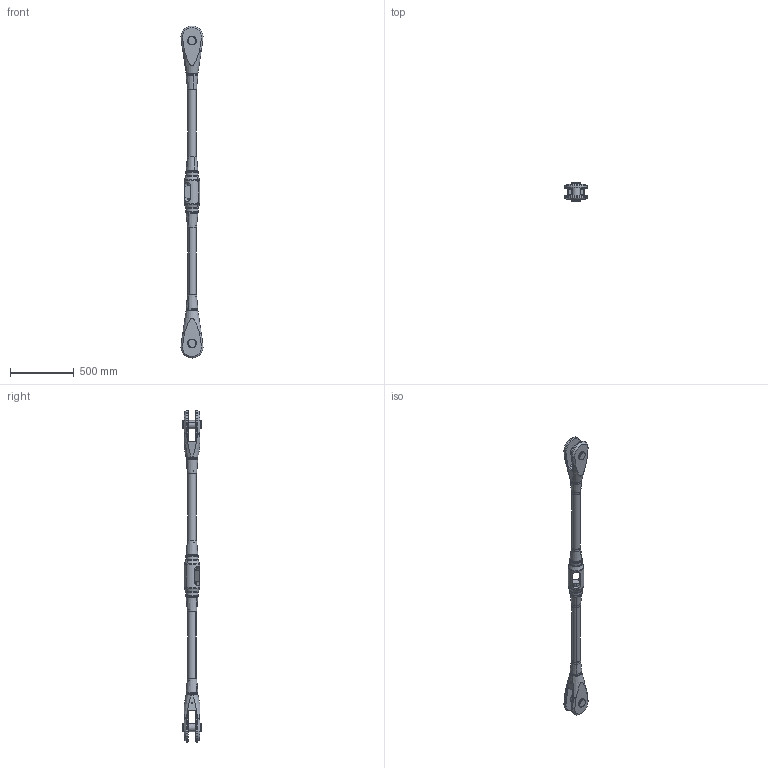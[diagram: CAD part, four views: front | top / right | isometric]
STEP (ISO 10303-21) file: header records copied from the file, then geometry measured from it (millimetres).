
FILE_DESCRIPTION (( 'STEP AP203' ), '1' );
FILE_NAME ('M64 G+AB+K.STEP', '2018-02-14T12:02:22', ( 'install' ), ( 'Hewlett-Packard Company' ), 'SwSTEP 2.0', 'SolidWorks 2017', '' );
FILE_SCHEMA (( 'CONFIG_CONTROL_DESIGN' ));
Length unit declared in the file: millimetre
Products named in the file (6): Gabelkopf Kunde_M64; Abdeckhülse_generisch_M64; Kreuzmuffe_M64; Zugstab_M64; Bolzen SicherungsringVarB_generisch_M64; M64 G+AB+K
Assembly tree (11 placements, depth 2):
  M64 G+AB+K
    Gabelkopf Kunde_M64  x2
    Abdeckhülse_generisch_M64  x4
    Kreuzmuffe_M64
    Zugstab_M64  x2
    Bolzen SicherungsringVarB_generisch_M64  x2
Bounding box: 173.94 x 145.4 x 2608 mm (x, y, z)
Volume: 15860802 mm3; surface area: 1440005.8 mm2
Topology: 11 solids, 11 shells, 382 faces, 975 edges, 605 vertices
Faces by surface type: cylinder 220, plane 68, cone 54, torus 25, bspline 15
Entity records: 17948 total; most frequent: CARTESIAN_POINT 12288, ORIENTED_EDGE 1140, DIRECTION 926, EDGE_CURVE 570, AXIS2_PLACEMENT_3D 373, VERTEX_POINT 357, EDGE_LOOP 239, ADVANCED_FACE 218
